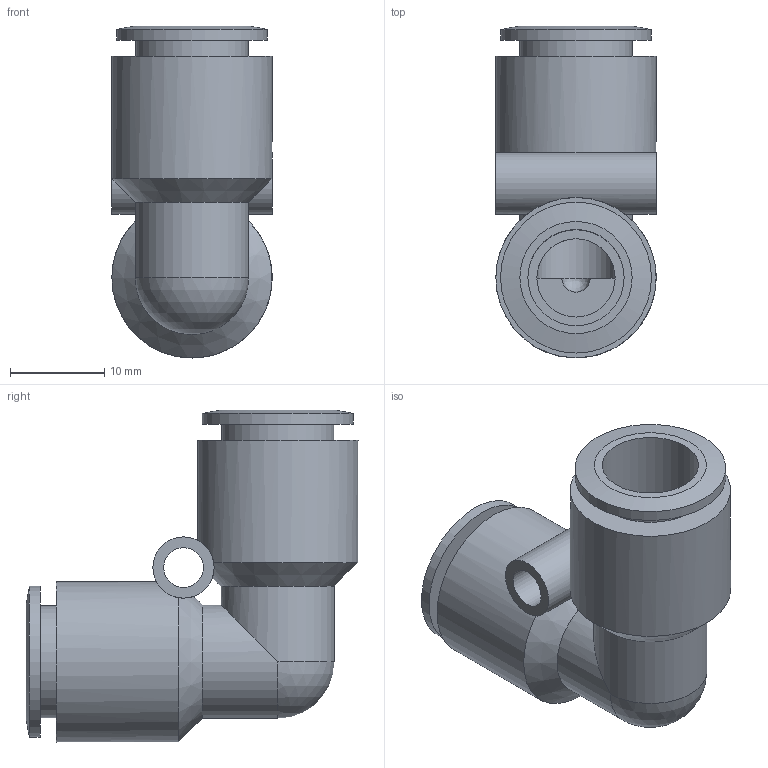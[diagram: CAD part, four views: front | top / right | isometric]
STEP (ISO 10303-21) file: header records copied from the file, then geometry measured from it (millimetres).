
FILE_DESCRIPTION((''),'2;1');
FILE_NAME('C:\Documents and Settings\rivolro1\Documenti\copia di Raccordi\PLASTICA\T04XX00\T041000.stp','2007-10-30T15:36:46',('Rivolro1'),(''),'Autodesk Inventor 2008','Autodesk Inventor 2008','');
FILE_SCHEMA(('AUTOMOTIVE_DESIGN { 1 0 10303 214 1 1 1 1 }'));
Length unit declared in the file: millimetre
Products named in the file (1): T041000
Bounding box: 17 x 35.2 x 35.2 mm (x, y, z)
Volume: 5769 mm3; surface area: 5323.9 mm2
Topology: 1 solids, 1 shells, 32 faces, 65 edges, 39 vertices
Faces by surface type: cylinder 12, plane 10, bspline 5, cone 4, sphere 1
Full cylindrical faces by diameter (mm): 4.2 x1, 6.5 x1, 8.3 x2, 11.9 x2, 12 x2, 16 x2, 17 x2
Entity records: 905 total; most frequent: CARTESIAN_POINT 267, DIRECTION 130, ORIENTED_EDGE 84, AXIS2_PLACEMENT_3D 64, EDGE_LOOP 62, EDGE_CURVE 42, VERTEX_POINT 36, CIRCLE 34
